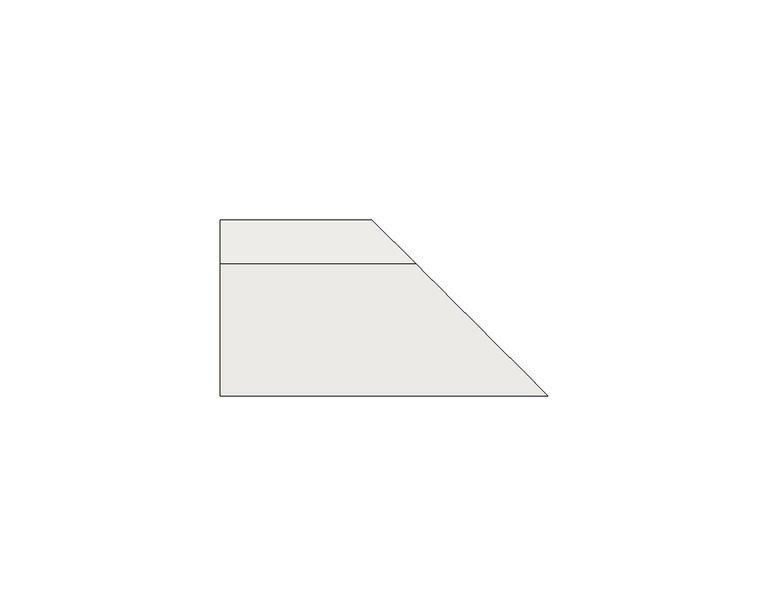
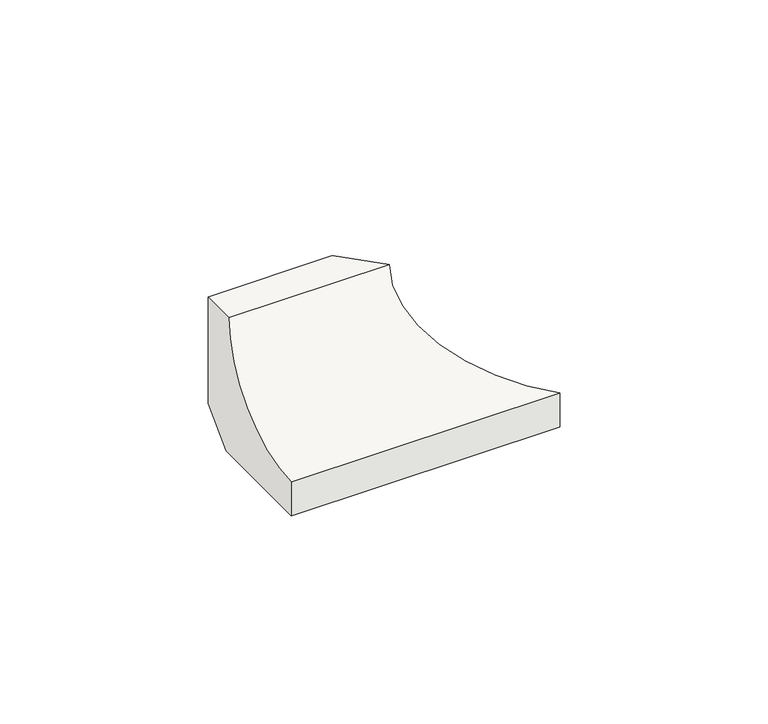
"""IFC4 building model written with IfcOpenShell, lengths in millimetres: slab geometry, ROSA GRES_112 (corte) : Pieza 112_Aqua_Marino_Liso."""

from ifc_helpers import new_model, si_unit, frame, origin, place, context, project, spatial, polyline, circle_curve, ellipse_curve, source, transform, mapped, element, save
from ifc_brep_helpers import plane_surface, revolved_surface, advanced_brep


def slab_cde869ac(model_context):
    return source(origin(), model_context, "Body", "AdvancedBrep", [
        advanced_brep(
        [(0.0, 0.0, 8.7114978), (0.0, -8.7114978, 0.0), (0.0, -40.0, 0.0), (0.0, -40.0, 9.9734114), (0.0, -9.9734114, 40.0), (0.0, 0.0, 40.0), (34.5, 0.0, 40.0), (34.5, 0.0, 8.7114978), (44.4734114, -9.9734114, 40.0), (74.5, -40.0, 9.9734114), (74.5, -40.0, 0.0), (43.2114978, -8.7114978, 0.0)],
        [
            (0, 1),
            (1, 2),
            (2, 3),
            (3, 4, circle_curve(frame((0.0, -39.9955547, 39.9955547), z_axis=(1.0, 0.0, 0.0), x_axis=(0.0, -1.0, 0.0)), 30.0221435)),
            (4, 5),
            (5, 0),
            (5, 6),
            (6, 7),
            (7, 0),
            (4, 8),
            (8, 6),
            (3, 9),
            (9, 8, ellipse_curve(frame((74.4955547, -39.9955547, 39.9955547), z_axis=(0.7071067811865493, 0.7071067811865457, 0.0), x_axis=(0.7071067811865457, -0.7071067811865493, 0.0)), 42.4577226, 30.0221435)),
            (2, 10),
            (10, 9),
            (1, 11),
            (11, 10),
            (7, 11),
        ],
        [
            plane_surface(frame((0.0, 0.0, 0.0), z_axis=(-1.0, 0.0, 0.0), x_axis=(0.0, 0.0, 1.0))),
            plane_surface(frame((0.0, 0.0, 8.7114978), z_axis=(0.0, 1.0, 0.0), x_axis=(1.0, 0.0, 0.0))),
            plane_surface(frame((0.0, 0.0, 40.0), z_axis=(0.0, 0.0, 1.0), x_axis=(1.0, 0.0, 0.0))),
            revolved_surface(polyline([(104.51769826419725, -70.0176982, 39.9955547), (0.0, -70.0176982, 39.9955547)]), (0.0, -39.9955547, 39.9955547), (1.0, 0.0, 0.0)),
            plane_surface(frame((0.0, -40.0, 9.9734114), z_axis=(0.0, -1.0, 0.0), x_axis=(1.0, 0.0, 0.0))),
            plane_surface(frame((0.0, -40.0, 0.0), z_axis=(0.0, 0.0, -1.0), x_axis=(1.0, 0.0, 0.0))),
            plane_surface(frame((0.0, -8.7114978, 0.0), z_axis=(0.0, 0.7071067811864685, -0.7071067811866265), x_axis=(1.0, 0.0, 0.0))),
            plane_surface(frame((75.0, -40.5, 104.9871832), z_axis=(0.7071067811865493, 0.7071067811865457, 0.0), x_axis=(0.0, 0.0, -1.0))),
        ],
        [
            (0, [[1, 2, 3, 4, 5, 6]]),
            (1, [[7, 8, 9, -6]]),
            (2, [[10, 11, -7, -5]]),
            (3, [[12, 13, -10, -4]]),
            (4, [[14, 15, -12, -3]]),
            (5, [[16, 17, -14, -2]]),
            (6, [[-9, 18, -16, -1]]),
            (7, [[-11, -13, -15, -17, -18, -8]]),
        ],
    ),
    ])


if __name__ == "__main__":
    model = new_model("IFC4")
    model_context = context("Model", 3, world=origin())
    ifc_project = project(units=[si_unit("LENGTHUNIT", "METRE", prefix="MILLI")], contexts=[model_context])
    site = spatial("IfcSite", under=ifc_project)
    building = spatial("IfcBuilding", under=site)
    placement = place(None, origin())
    slab_shape = slab_cde869ac(model_context)
    element("IfcSlab", 1, ObjectType="ROSA GRES_112 (corte) : Pieza 112_Aqua_Marino_Liso", at=placement, inside=building, context=model_context, shape_type="MappedRepresentation", body=[
        mapped(slab_shape, transform((0.0, 0.0, 0.0), x_axis=(1.0, 0.0, 0.0), y_axis=(0.0, 1.0, 0.0), z_axis=(0.0, 0.0, 1.0))),
    ])
    save(model, "model.ifc")
